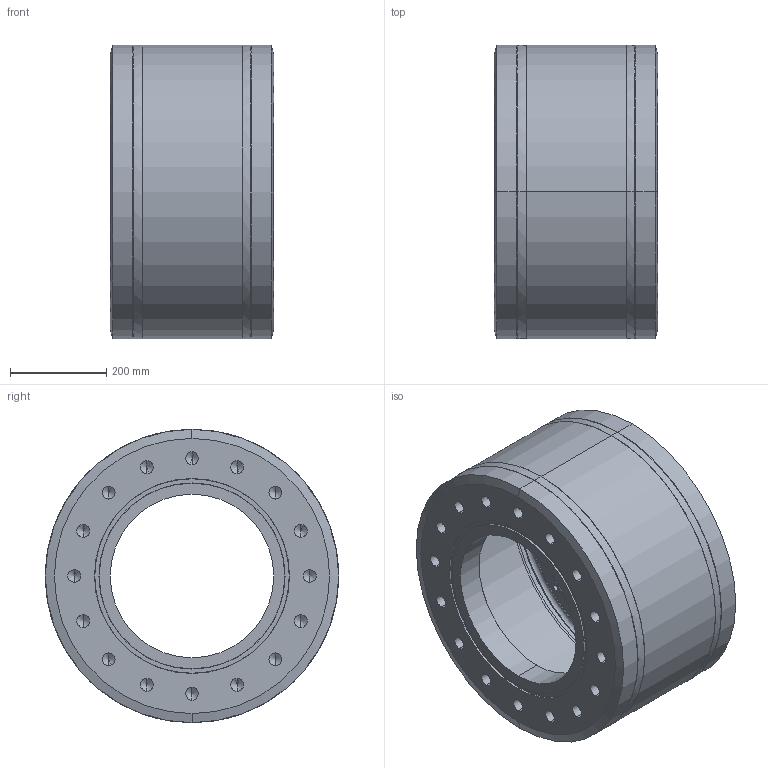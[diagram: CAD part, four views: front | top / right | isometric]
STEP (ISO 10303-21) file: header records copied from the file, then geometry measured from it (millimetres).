
FILE_DESCRIPTION (( 'STEP AP214' ), '1' );
FILE_NAME ('RVZ3139xB26A5A5500_DN350_DIN-RR-Nut_PS25.STEP', '2009-07-07T13:40:07', ( 'Eckhard Grams' ), ( 'AWP Kälte Klima Armaturen GmbH' ), 'SwSTEP 2.0', 'SolidWorks 2002296', '' );
FILE_SCHEMA (( 'AUTOMOTIVE_DESIGN' ));
Length unit declared in the file: millimetre
Products named in the file (7): RVZ3139xB26A5A5500_DN350_DIN-RR-Nut_PS25; Geh,kpl 31391B26-5030554_DIN-FL-RR-Nut_PS25_Standard; Geh 31391E26-5034004_DN350_PS40_Standard; Eintr-FL 31391B26-5433004_DN350_DIN-FL_PS25_E-FL in Geh,kpl 31391E26-5030551 RR-Nut; Austr-FL 31391B26-5436004_DN350_DIN-FL_PS25_A-FL in Geh,kpl 31391E26-5030551 RR-Nut; bead Geh,kpl 31391E26-2_Standard; bead Geh,kpl 31391E26-1_Standard
Assembly tree (6 placements, depth 3):
  RVZ3139xB26A5A5500_DN350_DIN-RR-Nut_PS25
    Geh,kpl 31391B26-5030554_DIN-FL-RR-Nut_PS25_Standard
      Geh 31391E26-5034004_DN350_PS40_Standard
      Eintr-FL 31391B26-5433004_DN350_DIN-FL_PS25_E-FL in Geh,kpl 31391E26-5030551 RR-Nut
      Austr-FL 31391B26-5436004_DN350_DIN-FL_PS25_A-FL in Geh,kpl 31391E26-5030551 RR-Nut
      bead Geh,kpl 31391E26-2_Standard
      bead Geh,kpl 31391E26-1_Standard
Bounding box: 340 x 610 x 610 mm (x, y, z)
Volume: 26706600.6 mm3; surface area: 2344669 mm2
Topology: 5 solids, 5 shells, 231 faces, 526 edges, 296 vertices
Faces by surface type: cylinder 98, cone 94, plane 17, torus 14, bspline 8
Entity records: 9645 total; most frequent: CARTESIAN_POINT 4191, DIRECTION 1214, ORIENTED_EDGE 988, AXIS2_PLACEMENT_3D 511, EDGE_CURVE 494, EDGE_LOOP 296, VERTEX_POINT 296, CIRCLE 278
